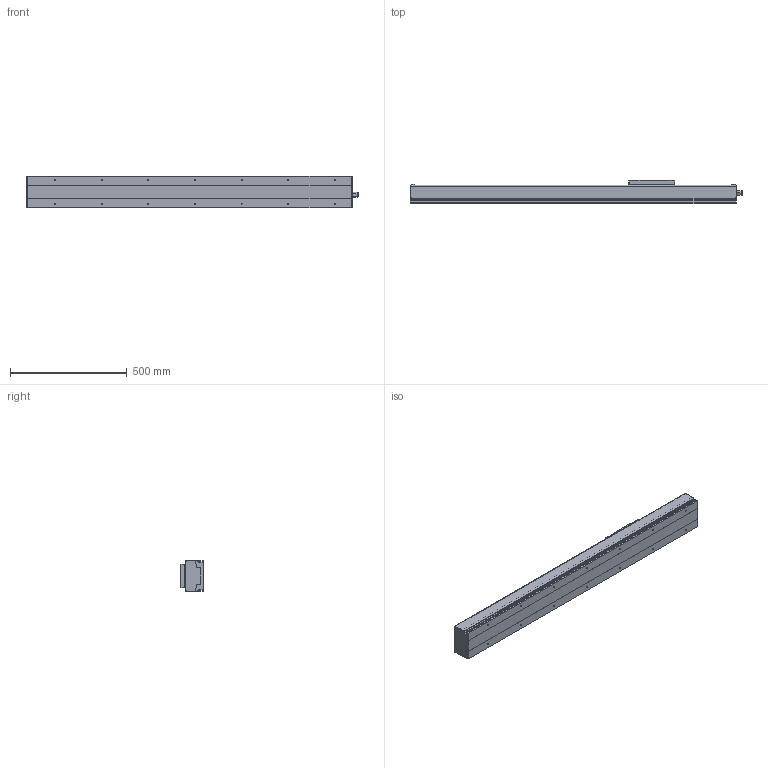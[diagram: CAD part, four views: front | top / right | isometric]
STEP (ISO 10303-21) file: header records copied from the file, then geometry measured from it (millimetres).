
FILE_DESCRIPTION(/* description */ (''),/* implementation_level */ '2;1');
FILE_NAME(/* name */ 'D:\混合母檔20191031\混和母檔\混和母檔\bin\Debug\Download\3D\KS140-10C-900AFI\KS140-10C-900AFI.stp',/* time_stamp */ '2019-11-04T15:34:26+08:00',/* author */ ('user'),/* organization */ (''),/* preprocessor_version */ 'ST-DEVELOPER v16.13',/* originating_system */ 'Autodesk Inventor 2018',/* authorisation */ '');
FILE_SCHEMA (('AUTOMOTIVE_DESIGN { 1 0 10303 214 3 1 1 }'));
Length unit declared in the file: millimetre
Products named in the file (3): KS140-10C-900AFI; KS140-FI-BP; KS140-SL
Assembly tree (2 placements, depth 2):
  KS140-10C-900AFI
    KS140-FI-BP
    KS140-SL
Bounding box: 1424.5 x 101 x 136 mm (x, y, z)
Volume: 5379078.1 mm3; surface area: 1393180.6 mm2
Topology: 4 solids, 8 shells, 687 faces, 1885 edges, 1237 vertices
Faces by surface type: plane 373, bspline 136, cylinder 82, cone 76, torus 16, sphere 4
Full cylindrical faces by diameter (mm): 3.571 x8, 4 x4, 4.134 x4, 4.3 x4, 4.917 x18, 6 x2, 8 x3, 8.4 x4, 12 x2, 13.1 x1, 15 x1, 18.75 x2, 46 x1, 50 x1
Entity records: 22137 total; most frequent: CARTESIAN_POINT 5929, ORIENTED_EDGE 3468, DIRECTION 2835, EDGE_CURVE 1733, VERTEX_POINT 1188, LINE 1143, VECTOR 1143, AXIS2_PLACEMENT_3D 846
